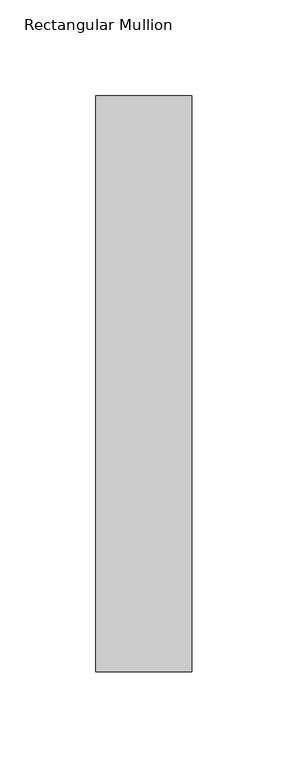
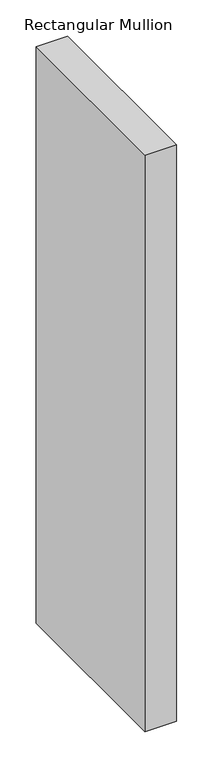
"""IFC4 building model written with IfcOpenShell, lengths in millimetres: member geometry, Rectangular Mullion : 50 x 100mm Ask."""

import ifcopenshell
import ifcopenshell.guid

model = None  # the IFC model being written
_history = None  # IfcOwnerHistory: only IFC2X3 demands one
_inside = {}  # id of a spatial element -> (the spatial element, [elements in it])
_under = {}  # id of a project, library or spatial element -> (it, [spatial elements below it])
_declared = {}  # id of a project -> (the project, [libraries it declares])
_typed = {}  # id of a type object -> (the type object, [elements of that type])
_made_of = {}  # id of a material, layer set ... -> (it, [elements and type objects made of it])


def new_model(schema):
    """Start an empty IFC model of exactly this schema.

    Asked for "IFC4X3", IfcOpenShell would pick the latest addendum, in which some entities
    have other attributes; the version numbers below select the first issue.
    IFC2X3 requires an IfcOwnerHistory on every rooted entity: one is made here for all.
    """
    global model, _history
    if schema == "IFC4X3":
        model = ifcopenshell.file(schema_version=(4, 3, 0, 0))
    else:
        model = ifcopenshell.file(schema=schema)
    _inside.clear()
    _under.clear()
    _declared.clear()
    _typed.clear()
    _made_of.clear()
    _history = None
    if model.schema == "IFC2X3":
        org = make("IfcOrganization", Name="unknown")
        user = make(
            "IfcPersonAndOrganization",
            ThePerson=make("IfcPerson", FamilyName="unknown"),
            TheOrganization=org,
        )
        app = make(
            "IfcApplication",
            ApplicationDeveloper=org,
            Version="unknown",
            ApplicationFullName="unknown",
            ApplicationIdentifier="unknown",
        )
        _history = make(
            "IfcOwnerHistory",
            OwningUser=user,
            OwningApplication=app,
            ChangeAction="ADDED",
            CreationDate=0,
        )
    return model


def make(cls, **values):
    """One entity of the class cls with the attributes given. An attribute that is None is left unset."""
    return model.create_entity(
        cls, **{name: value for name, value in values.items() if value is not None}
    )


def rooted(cls, **values):
    """An entity with a GlobalId (a new one), such as an element, a storey or a relation."""
    return make(cls, GlobalId=ifcopenshell.guid.new(), OwnerHistory=_history, **values)


def si_unit(unit_type, name, prefix=None):
    """IfcSIUnit, for example si_unit("LENGTHUNIT", "METRE", prefix="MILLI")."""
    return make("IfcSIUnit", UnitType=unit_type, Prefix=prefix, Name=name)


def assignment(units):
    """IfcUnitAssignment: the units of a project."""
    return None if units is None else make("IfcUnitAssignment", Units=units)


def point(xyz):
    """IfcCartesianPoint."""
    return None if xyz is None else make("IfcCartesianPoint", Coordinates=xyz)


def direction(xyz):
    """IfcDirection."""
    return None if xyz is None else make("IfcDirection", DirectionRatios=xyz)


def frame(location, z_axis=None, x_axis=None):
    """IfcAxis2Placement3D, a coordinate frame: its origin and axes. An axis left out is left unset."""
    return make(
        "IfcAxis2Placement3D",
        Location=point(location),
        Axis=direction(z_axis),
        RefDirection=direction(x_axis),
    )


def origin():
    """The frame at (0, 0, 0) with its axes left unset."""
    return frame((0.0, 0.0, 0.0))


def place(relative_to, where):
    """IfcLocalPlacement: puts the frame where relative to a parent placement (None: the world)."""
    return make(
        "IfcLocalPlacement", PlacementRelTo=relative_to, RelativePlacement=where
    )


def context(
    kind, dimensions, precision=None, world=None, true_north=None, identifier=None
):
    """IfcGeometricRepresentationContext, for example the 3D "Model" context."""
    return make(
        "IfcGeometricRepresentationContext",
        ContextIdentifier=identifier,
        ContextType=kind,
        CoordinateSpaceDimension=dimensions,
        Precision=precision,
        WorldCoordinateSystem=world,
        TrueNorth=true_north,
    )


def project(units=None, contexts=None):
    """IfcProject with its units and contexts."""
    return rooted(
        "IfcProject",
        Name="project",
        RepresentationContexts=contexts,
        UnitsInContext=assignment(units),
    )


def spatial(cls, under=None, at=None, **own):
    """A site, building, storey or space (cls), placed at a placement, below another one or the project."""
    s = rooted(cls, ObjectPlacement=at, **own)
    if under is not None:
        _under.setdefault(under.id(), (under, []))[1].append(s)
    return s


def polyline(points):
    """IfcPolyline through the points."""
    return make("IfcPolyline", Points=[point(p) for p in points])


def outline(outer, holes=None, kind="AREA"):
    """IfcArbitraryClosedProfileDef: a profile drawn as a closed curve; with holes, ...WithVoids."""
    if holes is None:
        return make("IfcArbitraryClosedProfileDef", ProfileType=kind, OuterCurve=outer)
    return make(
        "IfcArbitraryProfileDefWithVoids",
        ProfileType=kind,
        OuterCurve=outer,
        InnerCurves=holes,
    )


def extrude(swept, where, along, depth):
    """IfcExtrudedAreaSolid: the profile swept, set in the frame where, extruded along a direction by depth."""
    return make(
        "IfcExtrudedAreaSolid",
        SweptArea=swept,
        Position=where,
        ExtrudedDirection=direction(along),
        Depth=depth,
    )


def shape(context_of_items, identifier, shape_type, items):
    """IfcShapeRepresentation: the items that make up one representation, for example the "Body"."""
    return make(
        "IfcShapeRepresentation",
        ContextOfItems=context_of_items,
        RepresentationIdentifier=identifier,
        RepresentationType=shape_type,
        Items=items,
    )


def source(mapping_origin, context_of_items, identifier, shape_type, items):
    """IfcRepresentationMap: a shape defined once, which mapped items show again and again."""
    return make(
        "IfcRepresentationMap",
        MappingOrigin=mapping_origin,
        MappedRepresentation=shape(context_of_items, identifier, shape_type, items),
    )


def transform(
    local_origin,
    x_axis=None,
    y_axis=None,
    z_axis=None,
    scale=None,
    scale2=None,
    scale3=None,
    uniform=True,
):
    """IfcCartesianTransformationOperator3D, or its non-uniform kind. x_axis, y_axis, z_axis: its Axis1, 2, 3."""
    if uniform:
        return make(
            "IfcCartesianTransformationOperator3D",
            Axis1=direction(x_axis),
            Axis2=direction(y_axis),
            LocalOrigin=point(local_origin),
            Scale=scale,
            Axis3=direction(z_axis),
        )
    return make(
        "IfcCartesianTransformationOperator3DnonUniform",
        Axis1=direction(x_axis),
        Axis2=direction(y_axis),
        LocalOrigin=point(local_origin),
        Scale=scale,
        Axis3=direction(z_axis),
        Scale2=scale2,
        Scale3=scale3,
    )


def mapped(mapping_source, mapping_target):
    """IfcMappedItem: shows the shape of a source again, moved by a transform."""
    return make(
        "IfcMappedItem", MappingSource=mapping_source, MappingTarget=mapping_target
    )


def made_of(thing, what):
    """Note that an element or type object is made of a material, layer set ...; save() writes the relation."""
    if what is not None:
        _made_of.setdefault(what.id(), (what, []))[1].append(thing)
    return thing


def element(
    cls,
    number,
    at=None,
    inside=None,
    cuts=None,
    type_object=None,
    material=None,
    context=None,
    identifier="Body",
    shape_type=None,
    held_by="IfcProductDefinitionShape",
    body=None,
    shapes=None,
    **own,
):
    """One element of the class cls, such as IfcWall. Its Tag is "e" and its number.

    at: its placement. inside: the storey or other place that contains it. cuts: it is an
    opening in that element (IfcRelVoidsElement). A single representation is given by context,
    identifier, shape_type and body (its items); several are given by shapes. held_by: the class
    of the entity that holds the representations. save() writes the other relations.
    """
    e = rooted(cls, Tag="e%d" % number, ObjectPlacement=at, **own)
    if body is not None:
        shapes = [shape(context, identifier, shape_type, body)]
    if shapes is not None:
        e.Representation = make(held_by, Representations=shapes)
    if inside is not None:
        _inside.setdefault(inside.id(), (inside, []))[1].append(e)
    if cuts is not None:
        rooted(
            "IfcRelVoidsElement", RelatingBuildingElement=cuts, RelatedOpeningElement=e
        )
    if type_object is not None:
        _typed.setdefault(type_object.id(), (type_object, []))[1].append(e)
    return made_of(e, material)


def aggregate(whole, parts):
    """IfcRelAggregates: a whole, such as a stair, and the parts it consists of."""
    return rooted("IfcRelAggregates", RelatingObject=whole, RelatedObjects=parts)


def save(model, path):
    """Write the relations noted so far, then the file.

    IfcRelAggregates (storeys below a building ...), IfcRelContainedInSpatialStructure (elements
    in a storey), IfcRelDefinesByType, IfcRelAssociatesMaterial and IfcRelDeclares: one each for
    every whole, place, type object, material and project.
    """
    for whole, parts in _under.values():
        aggregate(whole, parts)
    for where, things in _inside.values():
        rooted(
            "IfcRelContainedInSpatialStructure",
            RelatedElements=things,
            RelatingStructure=where,
        )
    for kind, things in _typed.values():
        rooted("IfcRelDefinesByType", RelatedObjects=things, RelatingType=kind)
    for what, things in _made_of.values():
        rooted("IfcRelAssociatesMaterial", RelatedObjects=things, RelatingMaterial=what)
    for by, libraries in _declared.values():
        rooted("IfcRelDeclares", RelatingContext=by, RelatedDefinitions=libraries)
    model.write(path)


def rectangular_mullion_650169d8(model_context):
    return source(origin(), model_context, "Body", "SweptSolid", [
        extrude(outline(polyline([(0.0, 175.0), (0.0, -125.0), (-50.0, -125.0), (-50.0, 175.0), (0.0, 175.0)])), frame((0.0, 0.0, -968.3166168), z_axis=(0.0, 0.0, 1.0), x_axis=(1.0, 0.0, 0.0)), (0.0, 0.0, 1.0), 968.3166168),
    ])


if __name__ == "__main__":
    model = new_model("IFC4")
    model_context = context("Model", 3, world=origin())
    ifc_project = project(units=[si_unit("LENGTHUNIT", "METRE", prefix="MILLI")], contexts=[model_context])
    site = spatial("IfcSite", under=ifc_project)
    building = spatial("IfcBuilding", under=site)
    placement = place(None, origin())
    rectangular_mullion_shape = rectangular_mullion_650169d8(model_context)
    element("IfcMember", 1, ObjectType="Rectangular Mullion : 50 x 100mm Ask", at=placement, inside=building, context=model_context, shape_type="MappedRepresentation", body=[
        mapped(rectangular_mullion_shape, transform((0.0, 0.0, 0.0), x_axis=(1.0, 0.0, 0.0), y_axis=(0.0, 1.0, 0.0), z_axis=(0.0, 0.0, 1.0))),
    ])
    save(model, "model.ifc")
